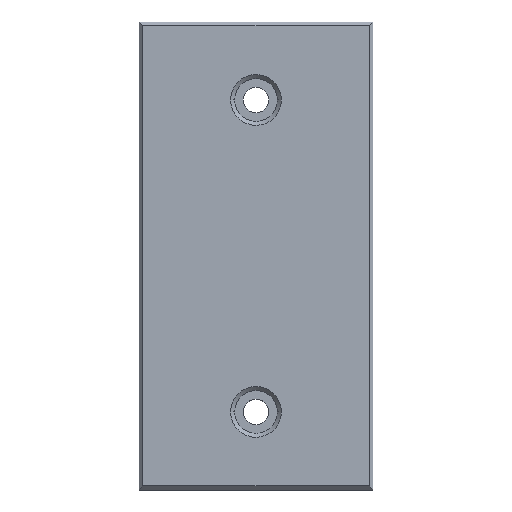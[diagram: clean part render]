
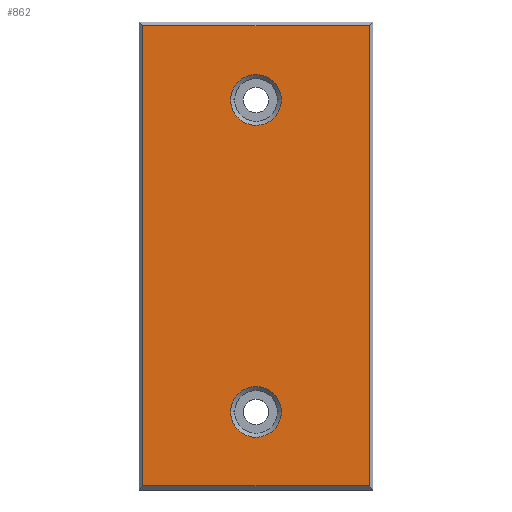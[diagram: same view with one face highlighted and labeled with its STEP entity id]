
A CAD part, top view. The second image highlights one B-rep face of the part: STEP entity #862.
In plain terms, the highlighted planar face has unit normal (0, 0.008, 1).
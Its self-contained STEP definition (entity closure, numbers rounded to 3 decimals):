
#381=CARTESIAN_POINT('Vertex',(1.,119.,18.008)) ;
#387=CARTESIAN_POINT('Vertex',(1.,1.,18.992)) ;
#390=CARTESIAN_POINT('Line Origine',(1.,60.004,18.5)) ;
#408=CARTESIAN_POINT('Line Origine',(30.,119.,18.008)) ;
#412=CARTESIAN_POINT('Vertex',(59.,119.,18.008)) ;
#433=CARTESIAN_POINT('Line Origine',(59.,60.004,18.5)) ;
#437=CARTESIAN_POINT('Vertex',(59.,1.,18.992)) ;
#457=CARTESIAN_POINT('Line Origine',(30.,1.,18.992)) ;
#608=CARTESIAN_POINT('Vertex',(23.5,100.008,18.167)) ;
#612=CARTESIAN_POINT('Control Point',(23.5,100.008,18.167)) ;
#613=CARTESIAN_POINT('Control Point',(23.5,99.866,18.168)) ;
#614=CARTESIAN_POINT('Control Point',(23.504,99.723,18.169)) ;
#615=CARTESIAN_POINT('Control Point',(23.511,99.58,18.17)) ;
#616=CARTESIAN_POINT('Control Point',(23.58,98.727,18.177)) ;
#617=CARTESIAN_POINT('Control Point',(23.79,97.889,18.184)) ;
#618=CARTESIAN_POINT('Control Point',(24.06,97.219,18.19)) ;
#619=CARTESIAN_POINT('Control Point',(24.776,95.97,18.2)) ;
#620=CARTESIAN_POINT('Control Point',(25.802,94.96,18.209)) ;
#621=CARTESIAN_POINT('Control Point',(26.382,94.529,18.212)) ;
#622=CARTESIAN_POINT('Control Point',(27.433,93.953,18.217)) ;
#623=CARTESIAN_POINT('Control Point',(28.581,93.63,18.22)) ;
#624=CARTESIAN_POINT('Control Point',(29.051,93.543,18.22)) ;
#625=CARTESIAN_POINT('Control Point',(30.238,93.435,18.221)) ;
#626=CARTESIAN_POINT('Control Point',(31.425,93.598,18.22)) ;
#627=CARTESIAN_POINT('Control Point',(32.119,93.793,18.218)) ;
#628=CARTESIAN_POINT('Control Point',(33.438,94.369,18.214)) ;
#629=CARTESIAN_POINT('Control Point',(34.553,95.278,18.206)) ;
#630=CARTESIAN_POINT('Control Point',(35.045,95.808,18.202)) ;
#631=CARTESIAN_POINT('Control Point',(35.815,96.909,18.192)) ;
#632=CARTESIAN_POINT('Control Point',(36.282,98.165,18.182)) ;
#633=CARTESIAN_POINT('Control Point',(36.428,98.772,18.177)) ;
#634=CARTESIAN_POINT('Control Point',(36.501,99.39,18.172)) ;
#635=CARTESIAN_POINT('Control Point',(36.5,100.008,18.167)) ;
#636=CARTESIAN_POINT('Vertex',(36.5,100.008,18.167)) ;
#694=CARTESIAN_POINT('Control Point',(36.5,100.008,18.167)) ;
#695=CARTESIAN_POINT('Control Point',(36.499,100.721,18.161)) ;
#696=CARTESIAN_POINT('Control Point',(36.401,101.433,18.155)) ;
#697=CARTESIAN_POINT('Control Point',(36.204,102.127,18.149)) ;
#698=CARTESIAN_POINT('Control Point',(35.627,103.445,18.138)) ;
#699=CARTESIAN_POINT('Control Point',(34.716,104.559,18.129)) ;
#700=CARTESIAN_POINT('Control Point',(34.186,105.05,18.125)) ;
#701=CARTESIAN_POINT('Control Point',(33.005,105.874,18.118)) ;
#702=CARTESIAN_POINT('Control Point',(31.646,106.349,18.114)) ;
#703=CARTESIAN_POINT('Control Point',(30.938,106.492,18.113)) ;
#704=CARTESIAN_POINT('Control Point',(29.501,106.579,18.112)) ;
#705=CARTESIAN_POINT('Control Point',(28.094,106.276,18.114)) ;
#706=CARTESIAN_POINT('Control Point',(27.415,106.028,18.116)) ;
#707=CARTESIAN_POINT('Control Point',(26.143,105.353,18.122)) ;
#708=CARTESIAN_POINT('Control Point',(25.1,104.36,18.13)) ;
#709=CARTESIAN_POINT('Control Point',(24.65,103.795,18.135)) ;
#710=CARTESIAN_POINT('Control Point',(24.019,102.728,18.144)) ;
#711=CARTESIAN_POINT('Control Point',(23.655,101.548,18.154)) ;
#712=CARTESIAN_POINT('Control Point',(23.552,101.039,18.158)) ;
#713=CARTESIAN_POINT('Control Point',(23.501,100.524,18.162)) ;
#714=CARTESIAN_POINT('Control Point',(23.5,100.008,18.167)) ;
#790=CARTESIAN_POINT('Axis2P3D Location',(0.,120.,18.)) ;
#802=CARTESIAN_POINT('Control Point',(36.5,20.008,18.833)) ;
#803=CARTESIAN_POINT('Control Point',(36.499,20.721,18.827)) ;
#804=CARTESIAN_POINT('Control Point',(36.401,21.433,18.821)) ;
#805=CARTESIAN_POINT('Control Point',(36.204,22.127,18.816)) ;
#806=CARTESIAN_POINT('Control Point',(35.627,23.445,18.805)) ;
#807=CARTESIAN_POINT('Control Point',(34.716,24.559,18.795)) ;
#808=CARTESIAN_POINT('Control Point',(34.186,25.05,18.791)) ;
#809=CARTESIAN_POINT('Control Point',(33.005,25.874,18.784)) ;
#810=CARTESIAN_POINT('Control Point',(31.646,26.349,18.78)) ;
#811=CARTESIAN_POINT('Control Point',(30.938,26.492,18.779)) ;
#812=CARTESIAN_POINT('Control Point',(29.501,26.579,18.779)) ;
#813=CARTESIAN_POINT('Control Point',(28.094,26.276,18.781)) ;
#814=CARTESIAN_POINT('Control Point',(27.415,26.028,18.783)) ;
#815=CARTESIAN_POINT('Control Point',(26.143,25.353,18.789)) ;
#816=CARTESIAN_POINT('Control Point',(25.1,24.36,18.797)) ;
#817=CARTESIAN_POINT('Control Point',(24.65,23.795,18.802)) ;
#818=CARTESIAN_POINT('Control Point',(24.019,22.728,18.811)) ;
#819=CARTESIAN_POINT('Control Point',(23.655,21.548,18.82)) ;
#820=CARTESIAN_POINT('Control Point',(23.552,21.039,18.825)) ;
#821=CARTESIAN_POINT('Control Point',(23.501,20.524,18.829)) ;
#822=CARTESIAN_POINT('Control Point',(23.5,20.008,18.833)) ;
#823=CARTESIAN_POINT('Vertex',(36.5,20.008,18.833)) ;
#825=CARTESIAN_POINT('Vertex',(23.5,20.008,18.833)) ;
#829=CARTESIAN_POINT('Control Point',(23.5,20.008,18.833)) ;
#830=CARTESIAN_POINT('Control Point',(23.5,19.866,18.834)) ;
#831=CARTESIAN_POINT('Control Point',(23.504,19.723,18.836)) ;
#832=CARTESIAN_POINT('Control Point',(23.511,19.58,18.837)) ;
#833=CARTESIAN_POINT('Control Point',(23.58,18.727,18.844)) ;
#834=CARTESIAN_POINT('Control Point',(23.79,17.889,18.851)) ;
#835=CARTESIAN_POINT('Control Point',(24.06,17.219,18.857)) ;
#836=CARTESIAN_POINT('Control Point',(24.776,15.97,18.867)) ;
#837=CARTESIAN_POINT('Control Point',(25.802,14.96,18.875)) ;
#838=CARTESIAN_POINT('Control Point',(26.382,14.529,18.879)) ;
#839=CARTESIAN_POINT('Control Point',(27.433,13.953,18.884)) ;
#840=CARTESIAN_POINT('Control Point',(28.581,13.63,18.886)) ;
#841=CARTESIAN_POINT('Control Point',(29.051,13.543,18.887)) ;
#842=CARTESIAN_POINT('Control Point',(30.238,13.435,18.888)) ;
#843=CARTESIAN_POINT('Control Point',(31.425,13.598,18.887)) ;
#844=CARTESIAN_POINT('Control Point',(32.119,13.793,18.885)) ;
#845=CARTESIAN_POINT('Control Point',(33.438,14.369,18.88)) ;
#846=CARTESIAN_POINT('Control Point',(34.553,15.278,18.873)) ;
#847=CARTESIAN_POINT('Control Point',(35.045,15.808,18.868)) ;
#848=CARTESIAN_POINT('Control Point',(35.815,16.909,18.859)) ;
#849=CARTESIAN_POINT('Control Point',(36.282,18.165,18.849)) ;
#850=CARTESIAN_POINT('Control Point',(36.428,18.772,18.844)) ;
#851=CARTESIAN_POINT('Control Point',(36.501,19.39,18.838)) ;
#852=CARTESIAN_POINT('Control Point',(36.5,20.008,18.833)) ;
#391=DIRECTION('Vector Direction',(0.,1.,-0.008)) ;
#409=DIRECTION('Vector Direction',(-1.,0.,0.)) ;
#434=DIRECTION('Vector Direction',(0.,1.,-0.008)) ;
#458=DIRECTION('Vector Direction',(-1.,0.,0.)) ;
#791=DIRECTION('Axis2P3D Direction',(-0.,0.008,1.)) ;
#792=DIRECTION('Axis2P3D XDirection',(0.,-1.,0.008)) ;
#793=AXIS2_PLACEMENT_3D('Plane Axis2P3D',#790,#791,#792) ;
#796=ORIENTED_EDGE('',*,*,#461,.F.) ;
#797=ORIENTED_EDGE('',*,*,#439,.F.) ;
#798=ORIENTED_EDGE('',*,*,#414,.F.) ;
#799=ORIENTED_EDGE('',*,*,#394,.F.) ;
#855=ORIENTED_EDGE('',*,*,#827,.F.) ;
#856=ORIENTED_EDGE('',*,*,#853,.F.) ;
#859=ORIENTED_EDGE('',*,*,#715,.F.) ;
#860=ORIENTED_EDGE('',*,*,#638,.F.) ;
#857=FACE_BOUND('',#854,.T.) ;
#861=FACE_BOUND('',#858,.T.) ;
#392=VECTOR('Line Direction',#391,1.) ;
#410=VECTOR('Line Direction',#409,1.) ;
#435=VECTOR('Line Direction',#434,1.) ;
#459=VECTOR('Line Direction',#458,1.) ;
#862=ADVANCED_FACE('\X2\96F64EF651E04F554F53\X0\',(#800,#857,#861),#794,.T.) ;
#611=B_SPLINE_CURVE_WITH_KNOTS('',5,(#612,#613,#614,#615,#616,#617,#618,#619,#620,#621,#622,#623,#624,#625,#626,#627,#628,#629,#630,#631,#632,#633,#634,#635),.UNSPECIFIED.,.F.,.U.,(6,3,3,3,3,3,3,6),(26.737,27.671,32.341,37.011,40.118,44.781,49.451,53.499),.UNSPECIFIED.) ;
#693=B_SPLINE_CURVE_WITH_KNOTS('',5,(#694,#695,#696,#697,#698,#699,#700,#701,#702,#703,#704,#705,#706,#707,#708,#709,#710,#711,#712,#713,#714),.UNSPECIFIED.,.F.,.U.,(6,3,3,3,3,3,6),(0.,4.666,9.339,14.013,18.687,23.36,26.737),.UNSPECIFIED.) ;
#801=B_SPLINE_CURVE_WITH_KNOTS('',5,(#802,#803,#804,#805,#806,#807,#808,#809,#810,#811,#812,#813,#814,#815,#816,#817,#818,#819,#820,#821,#822),.UNSPECIFIED.,.F.,.U.,(6,3,3,3,3,3,6),(0.,4.666,9.339,14.013,18.687,23.36,26.737),.UNSPECIFIED.) ;
#828=B_SPLINE_CURVE_WITH_KNOTS('',5,(#829,#830,#831,#832,#833,#834,#835,#836,#837,#838,#839,#840,#841,#842,#843,#844,#845,#846,#847,#848,#849,#850,#851,#852),.UNSPECIFIED.,.F.,.U.,(6,3,3,3,3,3,3,6),(26.737,27.671,32.341,37.011,40.118,44.781,49.451,53.499),.UNSPECIFIED.) ;
#394=EDGE_CURVE('',#388,#382,#393,.T.) ;
#414=EDGE_CURVE('',#382,#413,#411,.F.) ;
#439=EDGE_CURVE('',#413,#438,#436,.F.) ;
#461=EDGE_CURVE('',#438,#388,#460,.T.) ;
#638=EDGE_CURVE('',#609,#637,#611,.T.) ;
#715=EDGE_CURVE('',#637,#609,#693,.T.) ;
#827=EDGE_CURVE('',#824,#826,#801,.T.) ;
#853=EDGE_CURVE('',#826,#824,#828,.T.) ;
#795=EDGE_LOOP('',(#796,#797,#798,#799)) ;
#854=EDGE_LOOP('',(#855,#856)) ;
#858=EDGE_LOOP('',(#859,#860)) ;
#800=FACE_OUTER_BOUND('',#795,.T.) ;
#393=LINE('Line',#390,#392) ;
#411=LINE('Line',#408,#410) ;
#436=LINE('Line',#433,#435) ;
#460=LINE('Line',#457,#459) ;
#794=PLANE('Plane',#793) ;
#382=VERTEX_POINT('',#381) ;
#388=VERTEX_POINT('',#387) ;
#413=VERTEX_POINT('',#412) ;
#438=VERTEX_POINT('',#437) ;
#609=VERTEX_POINT('',#608) ;
#637=VERTEX_POINT('',#636) ;
#824=VERTEX_POINT('',#823) ;
#826=VERTEX_POINT('',#825) ;
